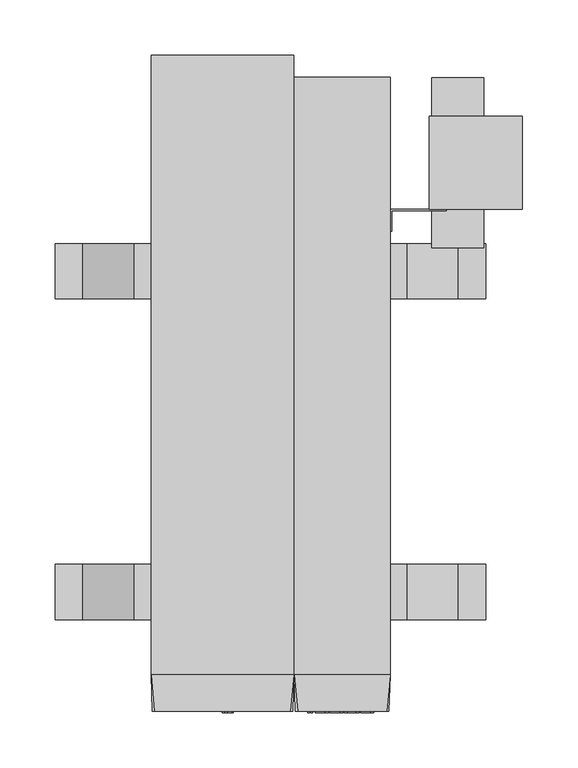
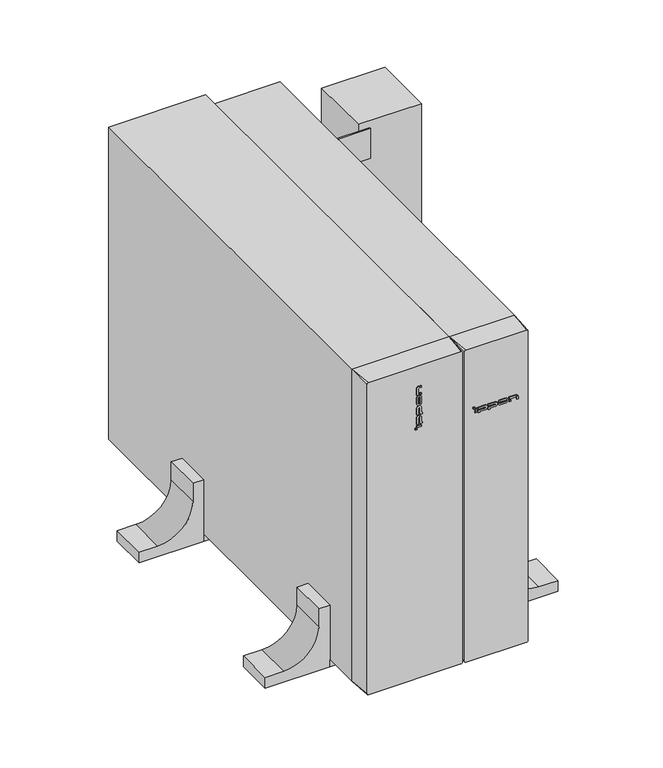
"""IFC4 building model written with IfcOpenShell, lengths in millimetres: proxy geometry, IPPON_ИБП_Innova RT II_60000_10000ВА_Вертикальный : Innova TR II 10000 ВА."""

from ifc_helpers import new_model, si_unit, point, frame, frame_2d, origin, origin_with_axes, place, context, project, spatial, polyline, circle_curve, trimmed, segment, composite_curve, outline, extrude, source, transform, mapped, element, save
from ifc_brep_helpers import plane_surface, spline_surface, advanced_brep


def electrical_equipment_558c85cb(model_context):
    return source(origin(), model_context, "Body", "SolidModel", [
        extrude(outline(polyline([(93.95, 454.0), (93.95, 452.5), (44.75, 452.5), (44.75, 434.0), (43.25, 434.0), (43.25, 454.0), (93.95, 454.0)])), frame((0.0, 0.0, 396.0), z_axis=(0.0, 0.0, 1.0), x_axis=(1.0, 0.0, 0.0)), (0.0, 0.0, 1.0), 42.0),
        extrude(outline(polyline([(43.25, 454.0), (93.95, 454.0), (93.95, 452.5), (44.75, 452.5), (44.75, 434.0), (43.25, 434.0), (43.25, 454.0)])), frame((0.0, 0.0, 20.0), z_axis=(0.0, 0.0, 1.0), x_axis=(1.0, 0.0, 0.0)), (0.0, 0.0, 1.0), 42.0),
        extrude(outline(polyline([(78.75, 454.0), (78.75, 538.0), (162.75, 538.0), (162.75, 454.0), (78.75, 454.0)])), frame((0.0, 0.0, 10.0), z_axis=(0.0, 0.0, 1.0), x_axis=(1.0, 0.0, 0.0)), (0.0, 0.0, 1.0), 438.0),
        extrude(outline(polyline([(80.75, 419.0), (80.75, 573.0), (127.75, 573.0), (127.75, 419.0), (80.75, 419.0)])), frame((0.0, 0.0, 70.0), z_axis=(0.0, 0.0, 1.0), x_axis=(1.0, 0.0, 0.0)), (0.0, 0.0, 1.0), 140.0),
        extrude(outline(polyline([(-105.95, -1.0), (-108.25, -1.0), (-108.25, 0.0), (-105.95, 0.0), (-105.95, -1.0)])), frame((0.0, 0.0, 360.0748292), z_axis=(0.0, 0.0, 1.0), x_axis=(1.0, 0.0, 0.0)), (0.0, 0.0, 1.0), 2.0),
        extrude(outline(polyline([(-99.95, -1.0), (-102.1768231, -1.0), (-102.1768231, 0.0), (-99.95, 0.0), (-99.95, -1.0)])), frame((0.0, 0.0, 407.8501899), z_axis=(0.0, 0.0, 1.0), x_axis=(1.0, 0.0, 0.0)), (0.0, 0.0, 1.0), 2.0),
        extrude(outline(polyline([(-99.95, -1.0), (-105.95, -1.0), (-105.95, 0.0), (-99.95, 0.0), (-99.95, -1.0)])), frame((0.0, 0.0, 362.7633101), z_axis=(0.0, 0.0, 1.0), x_axis=(1.0, 0.0, 0.0)), (0.0, 0.0, 1.0), 2.0447674),
        extrude(outline(composite_curve([segment(polyline([(367.0225317, -103.68756), (376.2542889, -103.68756)]), True, "CONTINUOUS"), segment(trimmed(circle_curve(frame_2d((376.2542889, -102.8310807)), 0.8564793), [point((376.2542889, -103.68756))], [point((376.2542889, -101.9746014))], True, "CARTESIAN"), True, "CONTINUOUS"), segment(polyline([(376.2542889, -101.9746014), (367.0225317, -101.9746014), (367.0225317, -98.4840968), (369.0225317, -98.4840968), (369.0225317, -99.95), (376.0980389, -99.95)]), True, "CONTINUOUS"), segment(trimmed(circle_curve(frame_2d((376.0980389, -102.95)), 3.0), [point((376.0980389, -99.95))], [point((376.0980389, -105.95))], False, "CARTESIAN"), True, "CONTINUOUS"), segment(polyline([(376.0980389, -105.95), (367.0225317, -105.95), (367.0225317, -103.68756)]), True, "CONTINUOUS")], self_intersect=False)), frame((0.0, -1.0, 0.0), z_axis=(0.0, 1.0, 0.0), x_axis=(0.0, 0.0, 1.0)), (0.0, 0.0, 1.0), 1.0),
        extrude(outline(composite_curve([segment(polyline([(380.2295334, -103.68756), (389.4612907, -103.68756)]), True, "CONTINUOUS"), segment(trimmed(circle_curve(frame_2d((389.4612907, -102.8310807)), 0.8564793), [point((389.4612907, -103.68756))], [point((389.4612907, -101.9746014))], True, "CARTESIAN"), True, "CONTINUOUS"), segment(polyline([(389.4612907, -101.9746014), (380.2295334, -101.9746014), (380.2295334, -98.4840968), (382.2295334, -98.4840968), (382.2295334, -99.95), (389.3050407, -99.95)]), True, "CONTINUOUS"), segment(trimmed(circle_curve(frame_2d((389.3050407, -102.95)), 3.0), [point((389.3050407, -99.95))], [point((389.3050407, -105.95))], False, "CARTESIAN"), True, "CONTINUOUS"), segment(polyline([(389.3050407, -105.95), (380.2295334, -105.95), (380.2295334, -103.68756)]), True, "CONTINUOUS")], self_intersect=False)), frame((0.0, -1.0, 0.0), z_axis=(0.0, 1.0, 0.0), x_axis=(0.0, 0.0, 1.0)), (0.0, 0.0, 1.0), 1.0),
        extrude(outline(composite_curve([segment(trimmed(circle_curve(frame_2d((403.8052996, -102.95)), 3.0), [point((403.8052996, -99.95))], [point((403.8052996, -105.95))], False, "CARTESIAN"), True, "CONTINUOUS"), segment(polyline([(403.8052996, -105.95), (396.2052996, -105.95)]), True, "CONTINUOUS"), segment(trimmed(circle_curve(frame_2d((396.2052996, -102.95)), 3.0), [point((396.2052996, -105.95))], [point((396.2052996, -99.95))], False, "CARTESIAN"), True, "CONTINUOUS"), segment(polyline([(396.2052996, -99.95), (403.8052996, -99.95)]), True, "CONTINUOUS")], self_intersect=False), holes=[composite_curve([segment(polyline([(403.9615496, -101.9746014), (396.0490496, -101.9746014)]), True, "CONTINUOUS"), segment(trimmed(circle_curve(frame_2d((396.0490496, -102.8310807)), 0.8564793), [point((396.0490496, -101.9746014))], [point((396.0490496, -103.68756))], True, "CARTESIAN"), True, "CONTINUOUS"), segment(polyline([(396.0490496, -103.68756), (403.9615496, -103.68756)]), True, "CONTINUOUS"), segment(trimmed(circle_curve(frame_2d((403.9615496, -102.8310807)), 0.8564793), [point((403.9615496, -103.68756))], [point((403.9615496, -101.9746014))], True, "CARTESIAN"), True, "CONTINUOUS")], self_intersect=False)]), frame((0.0, -1.0, 0.0), z_axis=(0.0, 1.0, 0.0), x_axis=(0.0, 0.0, 1.0)), (0.0, 0.0, 1.0), 1.0),
        extrude(outline(composite_curve([segment(polyline([(407.8501899, -103.68756), (417.0819472, -103.68756)]), True, "CONTINUOUS"), segment(trimmed(circle_curve(frame_2d((417.0819472, -102.8310807)), 0.8564793), [point((417.0819472, -103.68756))], [point((417.9384265, -102.8310807))], True, "CARTESIAN"), True, "CONTINUOUS"), segment(polyline([(417.9384265, -102.8310807), (417.9384265, -99.95), (419.8784346, -99.95), (419.8784346, -103.4804165)]), True, "CONTINUOUS"), segment(trimmed(circle_curve(frame_2d((416.9256972, -102.95)), 3.0), [point((419.8784346, -103.4804165))], [point((416.9256972, -105.95))], False, "CARTESIAN"), True, "CONTINUOUS"), segment(polyline([(416.9256972, -105.95), (407.8501899, -105.95), (407.8501899, -103.68756)]), True, "CONTINUOUS")], self_intersect=False)), frame((0.0, -1.0, 0.0), z_axis=(0.0, 1.0, 0.0), x_axis=(0.0, 0.0, 1.0)), (0.0, 0.0, 1.0), 1.0),
        extrude(outline(polyline([(-29.1718133, -1.0), (-31.1718133, -1.0), (-31.1718133, 0.0), (-29.1718133, 0.0), (-29.1718133, -1.0)])), frame((0.0, 0.0, 362.5595835), z_axis=(0.0, 0.0, 1.0), x_axis=(1.0, 0.0, 0.0)), (0.0, 0.0, 1.0), 2.3),
        extrude(outline(polyline([(18.6035474, -1.0), (16.6035474, -1.0), (16.6035474, 0.0), (18.6035474, 0.0), (18.6035474, -1.0)])), frame((0.0, 0.0, 356.5595835), z_axis=(0.0, 0.0, 1.0), x_axis=(1.0, 0.0, 0.0)), (0.0, 0.0, 1.0), 2.2268231),
        extrude(outline(polyline([(-26.438565, -1.0), (-28.4833324, -1.0), (-28.4833324, 0.0), (-26.438565, 0.0), (-26.438565, -1.0)])), frame((0.0, 0.0, 356.5595835), z_axis=(0.0, 0.0, 1.0), x_axis=(1.0, 0.0, 0.0)), (0.0, 0.0, 1.0), 6.0),
        extrude(outline(composite_curve([segment(polyline([(360.2971435, -24.2241109), (360.2971435, -14.9923536)]), True, "CONTINUOUS"), segment(trimmed(circle_curve(frame_2d((359.4406642, -14.9923536)), 0.8564793), [point((360.2971435, -14.9923536))], [point((358.5841849, -14.9923536))], True, "CARTESIAN"), True, "CONTINUOUS"), segment(polyline([(358.5841849, -14.9923536), (358.5841849, -24.2241109), (355.0936803, -24.2241109), (355.0936803, -22.2241109), (356.5595835, -22.2241109), (356.5595835, -15.1486036)]), True, "CONTINUOUS"), segment(trimmed(circle_curve(frame_2d((359.5595835, -15.1486036)), 3.0), [point((356.5595835, -15.1486036))], [point((362.5595835, -15.1486036))], False, "CARTESIAN"), True, "CONTINUOUS"), segment(polyline([(362.5595835, -15.1486036), (362.5595835, -24.2241109), (360.2971435, -24.2241109)]), True, "CONTINUOUS")], self_intersect=False)), frame((0.0, -1.0, 0.0), z_axis=(0.0, 1.0, 0.0), x_axis=(0.0, 0.0, 1.0)), (0.0, 0.0, 1.0), 1.0),
        extrude(outline(composite_curve([segment(polyline([(360.2971435, -11.0171091), (360.2971435, -1.7853518)]), True, "CONTINUOUS"), segment(trimmed(circle_curve(frame_2d((359.4406642, -1.7853518)), 0.8564793), [point((360.2971435, -1.7853518))], [point((358.5841849, -1.7853518))], True, "CARTESIAN"), True, "CONTINUOUS"), segment(polyline([(358.5841849, -1.7853518), (358.5841849, -11.0171091), (355.0936803, -11.0171091), (355.0936803, -9.0171091), (356.5595835, -9.0171091), (356.5595835, -1.9416018)]), True, "CONTINUOUS"), segment(trimmed(circle_curve(frame_2d((359.5595835, -1.9416018)), 3.0), [point((356.5595835, -1.9416018))], [point((362.5595835, -1.9416018))], False, "CARTESIAN"), True, "CONTINUOUS"), segment(polyline([(362.5595835, -1.9416018), (362.5595835, -11.0171091), (360.2971435, -11.0171091)]), True, "CONTINUOUS")], self_intersect=False)), frame((0.0, -1.0, 0.0), z_axis=(0.0, 1.0, 0.0), x_axis=(0.0, 0.0, 1.0)), (0.0, 0.0, 1.0), 1.0),
        extrude(outline(composite_curve([segment(trimmed(circle_curve(frame_2d((359.5595835, 12.558657)), 3.0), [point((356.5595835, 12.558657))], [point((362.5595835, 12.558657))], False, "CARTESIAN"), True, "CONTINUOUS"), segment(polyline([(362.5595835, 12.558657), (362.5595835, 4.958657)]), True, "CONTINUOUS"), segment(trimmed(circle_curve(frame_2d((359.5595835, 4.958657)), 3.0), [point((362.5595835, 4.958657))], [point((356.5595835, 4.958657))], False, "CARTESIAN"), True, "CONTINUOUS"), segment(polyline([(356.5595835, 4.958657), (356.5595835, 12.558657)]), True, "CONTINUOUS")], self_intersect=False), holes=[composite_curve([segment(polyline([(358.5841849, 12.714907), (358.5841849, 4.802407)]), True, "CONTINUOUS"), segment(trimmed(circle_curve(frame_2d((359.4406642, 4.802407)), 0.8564793), [point((358.5841849, 4.802407))], [point((360.2971435, 4.802407))], True, "CARTESIAN"), True, "CONTINUOUS"), segment(polyline([(360.2971435, 4.802407), (360.2971435, 12.714907)]), True, "CONTINUOUS"), segment(trimmed(circle_curve(frame_2d((359.4406642, 12.714907)), 0.8564793), [point((360.2971435, 12.714907))], [point((358.5841849, 12.714907))], True, "CARTESIAN"), True, "CONTINUOUS")], self_intersect=False)]), frame((0.0, -1.0, 0.0), z_axis=(0.0, 1.0, 0.0), x_axis=(0.0, 0.0, 1.0)), (0.0, 0.0, 1.0), 1.0),
        extrude(outline(composite_curve([segment(polyline([(360.2971435, 16.6035474), (360.2971435, 25.8353046)]), True, "CONTINUOUS"), segment(trimmed(circle_curve(frame_2d((359.4406642, 25.8353046)), 0.8564793), [point((360.2971435, 25.8353046))], [point((359.4406642, 26.6917839))], True, "CARTESIAN"), True, "CONTINUOUS"), segment(polyline([(359.4406642, 26.6917839), (356.5595835, 26.6917839), (356.5595835, 28.6317921), (360.09, 28.6317921)]), True, "CONTINUOUS"), segment(trimmed(circle_curve(frame_2d((359.5595835, 25.6790546)), 3.0), [point((360.09, 28.6317921))], [point((362.5595835, 25.6790546))], False, "CARTESIAN"), True, "CONTINUOUS"), segment(polyline([(362.5595835, 25.6790546), (362.5595835, 16.6035474), (360.2971435, 16.6035474)]), True, "CONTINUOUS")], self_intersect=False)), frame((0.0, -1.0, 0.0), z_axis=(0.0, 1.0, 0.0), x_axis=(0.0, 0.0, 1.0)), (0.0, 0.0, 1.0), 1.0),
        advanced_brep(
        [(-46.75, 0.0, 10.0), (-44.75, 0.0, 12.0), (-44.75, 0.0, 446.0), (-46.75, 0.0, 448.0), (-169.75, 0.0, 448.0), (-171.75, 0.0, 446.0), (-171.75, 0.0, 12.0), (-169.75, 0.0, 10.0), (-43.75, 33.0, 10.0), (-172.75, 33.0, 10.0), (-172.75, 33.0, 448.0), (-43.75, 33.0, 448.0)],
        [
            (0, 1, circle_curve(frame((-46.75, 0.0, 12.0), z_axis=(0.0, -1.0, 0.0), x_axis=(-1.0, 0.0, 0.0)), 2.0)),
            (1, 2),
            (2, 3, circle_curve(frame((-46.75, 0.0, 446.0), z_axis=(0.0, -1.0, 0.0), x_axis=(-1.0, 0.0, 0.0)), 2.0)),
            (3, 4),
            (4, 5, circle_curve(frame((-169.75, 0.0, 446.0), z_axis=(0.0, -1.0, 0.0), x_axis=(-1.0, 0.0, 0.0)), 2.0)),
            (5, 6),
            (6, 7, circle_curve(frame((-169.75, 0.0, 12.0), z_axis=(0.0, -1.0, 0.0), x_axis=(-1.0, 0.0, 0.0)), 2.0)),
            (7, 0),
            (8, 9),
            (9, 10),
            (10, 11),
            (11, 8),
            (0, 8),
            (8, 1),
            (7, 9),
            (6, 9),
            (5, 10),
            (4, 10),
            (3, 11),
            (2, 11),
        ],
        [
            plane_surface(frame((-108.25, 0.0, 229.0), z_axis=(0.0, -1.0, 0.0), x_axis=(1.0, 0.0, 0.0))),
            plane_surface(frame((-108.25, 33.0, 229.0), z_axis=(0.0, 1.0, 0.0), x_axis=(1.0, 0.0, 0.0))),
            spline_surface(2, 1, [[(-43.75, 33.0, 10.0), (-46.75, 0.0, 10.0)], [(-43.75, 33.0, 10.0), (-44.75, 0.0, 10.0)], [(-43.75, 33.0, 10.0), (-44.75, 0.0, 12.0)]], [3, 3], [2, 2], [0.0, 1.0], [0.0, 1.0], weights=[[1.0, 1.0], [0.7071067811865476, 0.7071067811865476], [1.0, 1.0]]),
            plane_surface(frame((-108.25, 33.0, 10.0), z_axis=(0.0, 0.0, -1.0), x_axis=(1.0, 0.0, 0.0))),
            spline_surface(2, 1, [[(-172.75, 33.0, 10.0), (-171.75, 0.0, 12.0)], [(-172.75, 33.0, 10.0), (-171.75, 0.0, 10.0)], [(-172.75, 33.0, 10.0), (-169.75, 0.0, 10.0)]], [3, 3], [2, 2], [0.0, 1.0], [0.0, 1.0], weights=[[1.0, 1.0], [0.7071067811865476, 0.7071067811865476], [1.0, 1.0]]),
            plane_surface(frame((-172.75, 33.0, 229.0), z_axis=(-0.9995411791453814, -0.030289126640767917, 0.0), x_axis=(0.0, 0.0, -1.0))),
            spline_surface(2, 1, [[(-172.75, 33.0, 448.0), (-169.75, 0.0, 448.0)], [(-172.75, 33.0, 448.0), (-171.75, 0.0, 448.0)], [(-172.75, 33.0, 448.0), (-171.75, 0.0, 446.0)]], [3, 3], [2, 2], [0.0, 1.0], [0.0, 1.0], weights=[[1.0, 1.0], [0.7071067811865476, 0.7071067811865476], [1.0, 1.0]]),
            plane_surface(frame((-108.25, 33.0, 448.0), z_axis=(0.0, 0.0, 1.0), x_axis=(-1.0, 0.0, 0.0))),
            spline_surface(2, 1, [[(-43.75, 33.0, 448.0), (-44.75, 0.0, 446.0)], [(-43.75, 33.0, 448.0), (-44.75, 0.0, 448.0)], [(-43.75, 33.0, 448.0), (-46.75, 0.0, 448.0)]], [3, 3], [2, 2], [0.0, 1.0], [0.0, 1.0], weights=[[1.0, 1.0], [0.7071067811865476, 0.7071067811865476], [1.0, 1.0]]),
            plane_surface(frame((-43.75, 33.0, 229.0), z_axis=(0.9995411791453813, -0.03028912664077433, 0.0), x_axis=(0.0, 0.0, 1.0))),
        ],
        [
            (0, [[1, 2, 3, 4, 5, 6, 7, 8]]),
            (1, [[9, 10, 11, 12]]),
            (2, [[-1, 13, 14]]),
            (3, [[-9, -13, -8, 15]]),
            (4, [[-7, 16, -15]]),
            (5, [[-10, -16, -6, 17]]),
            (6, [[-5, 18, -17]]),
            (7, [[-11, -18, -4, 19]]),
            (8, [[-3, 20, -19]]),
            (9, [[-12, -20, -2, -14]]),
        ],
    ),
        extrude(outline(polyline([(-43.75, 33.0), (-172.75, 33.0), (-172.75, 593.0), (-43.75, 593.0), (-43.75, 33.0)])), frame((0.0, 0.0, 10.0), z_axis=(0.0, 0.0, 1.0), x_axis=(1.0, 0.0, 0.0)), (0.0, 0.0, 1.0), 438.0),
        advanced_brep(
        [(40.25, 0.0, 10.0), (42.25, 0.0, 12.0), (42.25, 0.0, 446.0), (40.25, 0.0, 448.0), (-40.25, 0.0, 448.0), (-42.25, 0.0, 446.0), (-42.25, 0.0, 12.0), (-40.25, 0.0, 10.0), (43.25, 33.0, 10.0), (-43.25, 33.0, 10.0), (-43.25, 33.0, 448.0), (43.25, 33.0, 448.0)],
        [
            (0, 1, circle_curve(frame((40.25, 0.0, 12.0), z_axis=(0.0, -1.0, 0.0), x_axis=(-1.0, 0.0, 0.0)), 2.0)),
            (1, 2),
            (2, 3, circle_curve(frame((40.25, 0.0, 446.0), z_axis=(0.0, -1.0, 0.0), x_axis=(-1.0, 0.0, 0.0)), 2.0)),
            (3, 4),
            (4, 5, circle_curve(frame((-40.25, 0.0, 446.0), z_axis=(0.0, -1.0, 0.0), x_axis=(-1.0, 0.0, 0.0)), 2.0)),
            (5, 6),
            (6, 7, circle_curve(frame((-40.25, 0.0, 12.0), z_axis=(0.0, -1.0, 0.0), x_axis=(-1.0, 0.0, 0.0)), 2.0)),
            (7, 0),
            (8, 9),
            (9, 10),
            (10, 11),
            (11, 8),
            (0, 8),
            (8, 1),
            (7, 9),
            (6, 9),
            (5, 10),
            (4, 10),
            (3, 11),
            (2, 11),
        ],
        [
            plane_surface(frame((0.0, 0.0, 229.0), z_axis=(0.0, -1.0, 0.0), x_axis=(1.0, 0.0, 0.0))),
            plane_surface(frame((0.0, 33.0, 229.0), z_axis=(0.0, 1.0, 0.0), x_axis=(1.0, 0.0, 0.0))),
            spline_surface(2, 1, [[(43.25, 33.0, 10.0), (40.25, 0.0, 10.0)], [(43.25, 33.0, 10.0), (42.25, 0.0, 10.0)], [(43.25, 33.0, 10.0), (42.25, 0.0, 12.0)]], [3, 3], [2, 2], [0.0, 1.0], [0.0, 1.0], weights=[[1.0, 1.0], [0.7071067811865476, 0.7071067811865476], [1.0, 1.0]]),
            plane_surface(frame((0.0, 33.0, 10.0), z_axis=(0.0, 0.0, -1.0), x_axis=(1.0, 0.0, 0.0))),
            spline_surface(2, 1, [[(-43.25, 33.0, 10.0), (-42.25, 0.0, 12.0)], [(-43.25, 33.0, 10.0), (-42.25, 0.0, 10.0)], [(-43.25, 33.0, 10.0), (-40.25, 0.0, 10.0)]], [3, 3], [2, 2], [0.0, 1.0], [0.0, 1.0], weights=[[1.0, 1.0], [0.7071067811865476, 0.7071067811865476], [1.0, 1.0]]),
            plane_surface(frame((-43.25, 33.0, 229.0), z_axis=(-0.9995411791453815, -0.030289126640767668, 0.0), x_axis=(0.0, 0.0, -1.0))),
            spline_surface(2, 1, [[(-43.25, 33.0, 448.0), (-40.25, 0.0, 448.0)], [(-43.25, 33.0, 448.0), (-42.25, 0.0, 448.0)], [(-43.25, 33.0, 448.0), (-42.25, 0.0, 446.0)]], [3, 3], [2, 2], [0.0, 1.0], [0.0, 1.0], weights=[[1.0, 1.0], [0.7071067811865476, 0.7071067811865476], [1.0, 1.0]]),
            plane_surface(frame((0.0, 33.0, 448.0), z_axis=(0.0, 0.0, 1.0), x_axis=(-1.0, 0.0, 0.0))),
            spline_surface(2, 1, [[(43.25, 33.0, 448.0), (42.25, 0.0, 446.0)], [(43.25, 33.0, 448.0), (42.25, 0.0, 448.0)], [(43.25, 33.0, 448.0), (40.25, 0.0, 448.0)]], [3, 3], [2, 2], [0.0, 1.0], [0.0, 1.0], weights=[[1.0, 1.0], [0.7071067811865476, 0.7071067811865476], [1.0, 1.0]]),
            plane_surface(frame((43.25, 33.0, 229.0), z_axis=(0.9995411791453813, -0.03028912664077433, 0.0), x_axis=(0.0, 0.0, 1.0))),
        ],
        [
            (0, [[1, 2, 3, 4, 5, 6, 7, 8]]),
            (1, [[9, 10, 11, 12]]),
            (2, [[-1, 13, 14]]),
            (3, [[-9, -13, -8, 15]]),
            (4, [[-7, 16, -15]]),
            (5, [[-10, -16, -6, 17]]),
            (6, [[-5, 18, -17]]),
            (7, [[-11, -18, -4, 19]]),
            (8, [[-3, 20, -19]]),
            (9, [[-12, -20, -2, -14]]),
        ],
    ),
        extrude(outline(polyline([(43.25, 33.0), (-43.25, 33.0), (-43.25, 573.0), (43.25, 573.0), (43.25, 33.0)])), frame((0.0, 0.0, 10.0), z_axis=(0.0, 0.0, 1.0), x_axis=(1.0, 0.0, 0.0)), (0.0, 0.0, 1.0), 438.0),
        extrude(outline(polyline([(43.25, 83.0), (-172.75, 83.0), (-172.75, 133.0), (43.25, 133.0), (43.25, 83.0)])), origin_with_axes(), (0.0, 0.0, 1.0), 10.0),
        extrude(outline(polyline([(-172.75, 423.0), (43.25, 423.0), (43.25, 373.0), (-172.75, 373.0), (-172.75, 423.0)])), origin_with_axes(), (0.0, 0.0, 1.0), 10.0),
        extrude(outline(composite_curve([segment(polyline([(86.5, -187.75), (61.5, -187.75)]), True, "CONTINUOUS"), segment(trimmed(circle_curve(frame_2d((61.5, -234.25)), 46.5), [point((61.5, -187.75))], [point((15.0, -234.25))], True, "CARTESIAN"), True, "CONTINUOUS"), segment(polyline([(15.0, -234.25), (15.0, -259.25), (0.0, -259.25), (0.0, -172.75), (86.5, -172.75), (86.5, -187.75)]), True, "CONTINUOUS")], self_intersect=False)), frame((0.0, 83.0, 0.0), z_axis=(0.0, 1.0, 0.0), x_axis=(0.0, 0.0, 1.0)), (0.0, 0.0, 1.0), 50.0),
        extrude(outline(composite_curve([segment(polyline([(86.5, -187.75), (61.5, -187.75)]), True, "CONTINUOUS"), segment(trimmed(circle_curve(frame_2d((61.5, -234.25)), 46.5), [point((61.5, -187.75))], [point((15.0, -234.25))], True, "CARTESIAN"), True, "CONTINUOUS"), segment(polyline([(15.0, -234.25), (15.0, -259.25), (0.0, -259.25), (0.0, -172.75), (86.5, -172.75), (86.5, -187.75)]), True, "CONTINUOUS")], self_intersect=False)), frame((0.0, 373.0, 0.0), z_axis=(0.0, 1.0, 0.0), x_axis=(0.0, 0.0, 1.0)), (0.0, 0.0, 1.0), 50.0),
        extrude(outline(composite_curve([segment(polyline([(0.0, 129.75), (15.0, 129.75), (15.0, 104.75)]), True, "CONTINUOUS"), segment(trimmed(circle_curve(frame_2d((61.5, 104.75)), 46.5), [point((15.0, 104.75))], [point((61.5, 58.25))], True, "CARTESIAN"), True, "CONTINUOUS"), segment(polyline([(61.5, 58.25), (86.5, 58.25), (86.5, 43.25), (0.0, 43.25), (0.0, 129.75)]), True, "CONTINUOUS")], self_intersect=False)), frame((0.0, 83.0, 0.0), z_axis=(0.0, 1.0, 0.0), x_axis=(0.0, 0.0, 1.0)), (0.0, 0.0, 1.0), 50.0),
        extrude(outline(composite_curve([segment(polyline([(0.0, 43.25), (0.0, 129.75), (15.0, 129.75), (15.0, 104.75)]), True, "CONTINUOUS"), segment(trimmed(circle_curve(frame_2d((61.5, 104.75)), 46.5), [point((15.0, 104.75))], [point((61.5, 58.25))], True, "CARTESIAN"), True, "CONTINUOUS"), segment(polyline([(61.5, 58.25), (86.5, 58.25), (86.5, 43.25), (0.0, 43.25)]), True, "CONTINUOUS")], self_intersect=False)), frame((0.0, 373.0, 0.0), z_axis=(0.0, 1.0, 0.0), x_axis=(0.0, 0.0, 1.0)), (0.0, 0.0, 1.0), 50.0),
    ])


if __name__ == "__main__":
    model = new_model("IFC4")
    model_context = context("Model", 3, world=origin())
    ifc_project = project(units=[si_unit("LENGTHUNIT", "METRE", prefix="MILLI")], contexts=[model_context])
    site = spatial("IfcSite", under=ifc_project)
    building = spatial("IfcBuilding", under=site)
    placement = place(None, origin())
    electrical_equipment_shape = electrical_equipment_558c85cb(model_context)
    element("IfcBuildingElementProxy", 1, Name="IPPON_ИБП_Innova RT II_60000_10000ВА_Вертикальный : Innova TR II 10000 ВА", ObjectType="IPPON_ИБП_Innova RT II_60000_10000ВА_Вертикальный : Innova TR II 10000 ВА", at=placement, inside=building, context=model_context, shape_type="MappedRepresentation", body=[
        mapped(electrical_equipment_shape, transform((0.0, 0.0, 0.0), x_axis=(1.0, 0.0, 0.0), y_axis=(0.0, 1.0, 0.0), z_axis=(0.0, 0.0, 1.0))),
    ])
    save(model, "model.ifc")
